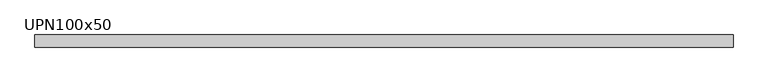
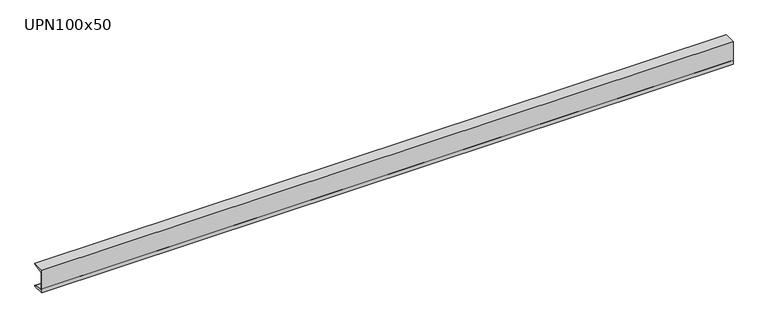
"""IFC4 building model written with IfcOpenShell, lengths in millimetres: beam geometry, M_MC Shapes : UPN100x50."""

from ifc_helpers import new_model, si_unit, point, frame, frame_2d, origin, place, context, project, spatial, polyline, circle_curve, trimmed, segment, composite_curve, outline, extrude, source, transform, mapped, element, save


def upn100x50_0ffe9813(model_context):
    return source(origin(), model_context, "Body", "SweptSolid", [
        extrude(outline(composite_curve([segment(polyline([(-10.9, 50.0), (39.1, 50.0), (39.1, 49.0253247)]), True, "CONTINUOUS"), segment(trimmed(circle_curve(frame_2d((35.15, 49.0253247)), 3.95), [point((39.1, 49.0253247))], [point((35.7993773, 45.1290689))], False, "CARTESIAN"), True, "CONTINUOUS"), segment(polyline([(35.7993773, 45.1290689), (0.2512455, 39.2043685)]), True, "CONTINUOUS"), segment(trimmed(circle_curve(frame_2d((1.55, 31.4118569)), 7.9), [point((0.2512455, 39.2043685))], [point((-6.35, 31.4118569))], True, "CARTESIAN"), True, "CONTINUOUS"), segment(polyline([(-6.35, 31.4118569), (-6.35, -31.4118569)]), True, "CONTINUOUS"), segment(trimmed(circle_curve(frame_2d((1.55, -31.4118569)), 7.9), [point((-6.35, -31.4118569))], [point((0.2512455, -39.2043685))], True, "CARTESIAN"), True, "CONTINUOUS"), segment(polyline([(0.2512455, -39.2043685), (35.7993773, -45.1290689)]), True, "CONTINUOUS"), segment(trimmed(circle_curve(frame_2d((35.15, -49.0253247)), 3.95), [point((35.7993773, -45.1290689))], [point((39.1, -49.0253247))], False, "CARTESIAN"), True, "CONTINUOUS"), segment(polyline([(39.1, -49.0253247), (39.1, -50.0), (-10.9, -50.0), (-10.9, 50.0)]), True, "CONTINUOUS")], self_intersect=False)), frame((-1440.85, 0.0, 0.0), z_axis=(1.0, 0.0, 0.0), x_axis=(0.0, 1.0, 0.0)), (0.0, 0.0, 1.0), 2881.7),
    ])


if __name__ == "__main__":
    model = new_model("IFC4")
    model_context = context("Model", 3, world=origin())
    ifc_project = project(units=[si_unit("LENGTHUNIT", "METRE", prefix="MILLI")], contexts=[model_context])
    site = spatial("IfcSite", under=ifc_project)
    building = spatial("IfcBuilding", under=site)
    placement = place(None, origin())
    upn100x50_shape = upn100x50_0ffe9813(model_context)
    element("IfcBeam", 1, ObjectType="M_MC Shapes : UPN100x50", at=placement, inside=building, context=model_context, shape_type="MappedRepresentation", body=[
        mapped(upn100x50_shape, transform((0.0, 0.0, 0.0), x_axis=(1.0, 0.0, 0.0), y_axis=(0.0, 1.0, 0.0), z_axis=(0.0, 0.0, 1.0))),
    ])
    save(model, "model.ifc")
